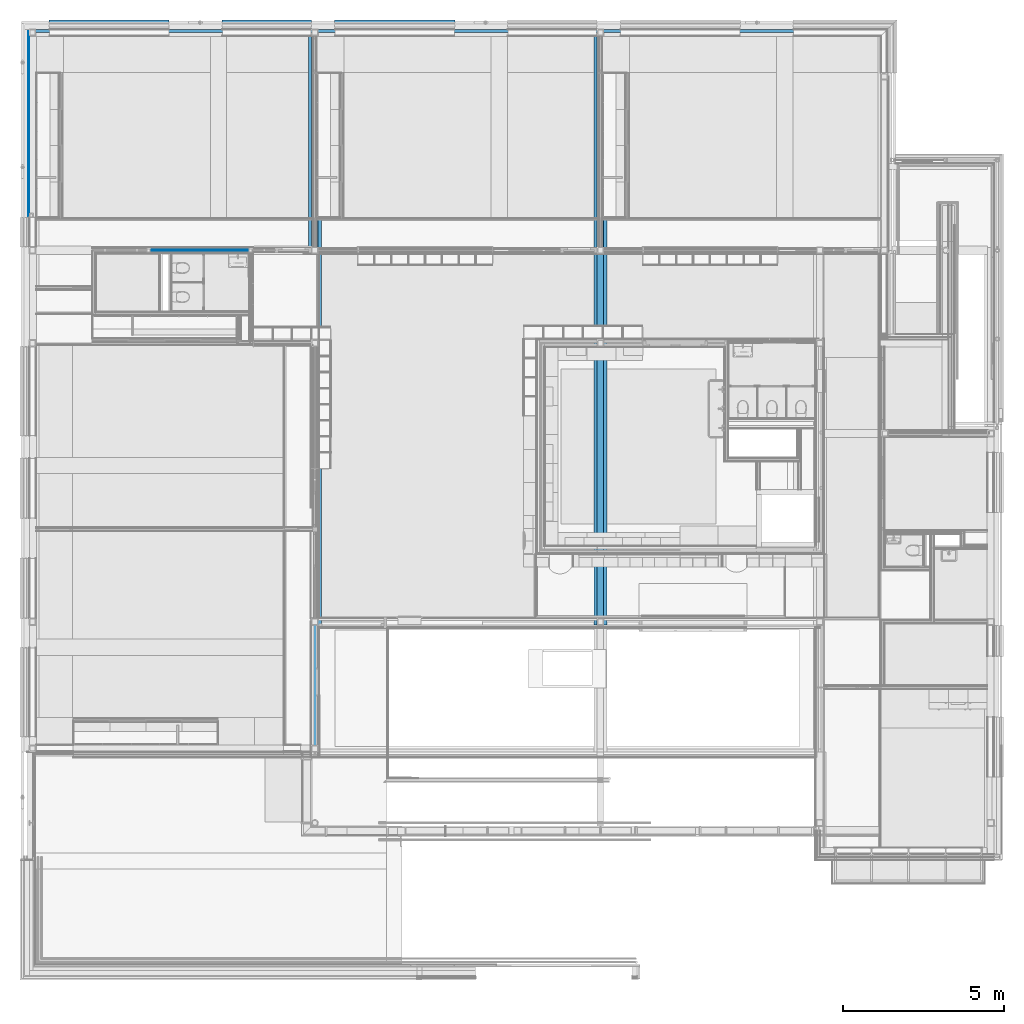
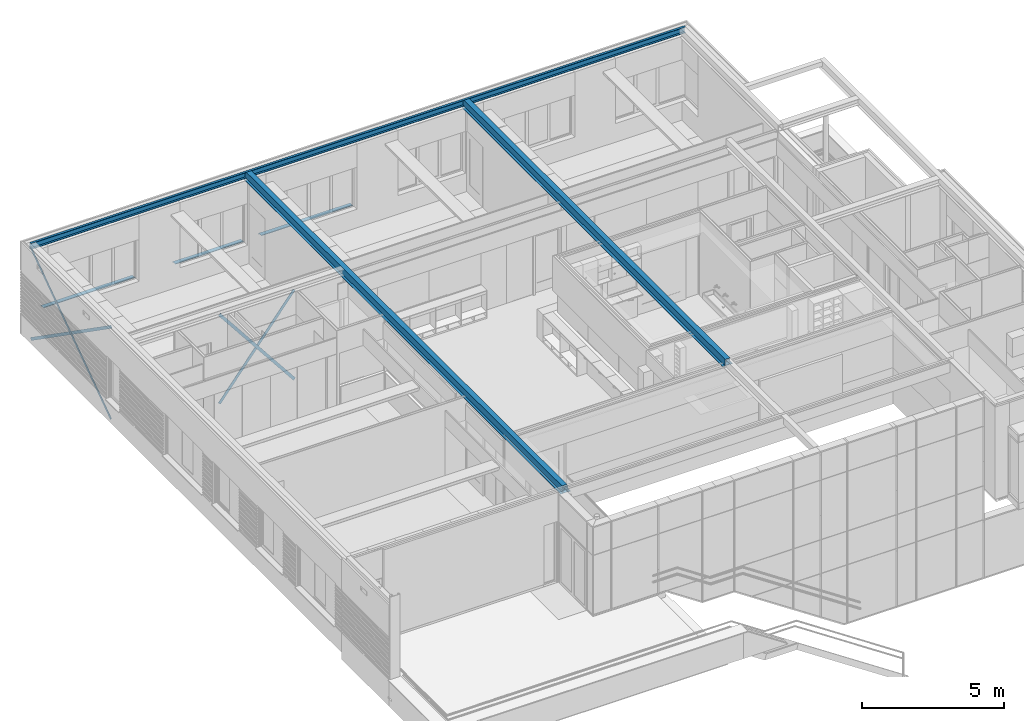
# One storey, part 22 of 137: 10 beams.
"""IFC2X3 building model written with IfcOpenShell, lengths in millimetres."""

from ifc_helpers import new_model, entity, si_unit, converted_unit, derived_unit, money_unit, direction, frame, origin_with_axes, place, context, subcontext, project, spatial, faceted_brep, material, type_object, element, save


model = new_model("IFC2X3")

# Units and contexts
model_context = context("Model", 3, precision=0.01, world=origin_with_axes(), true_north=direction((0.0, 1.0)))
body_context = subcontext(model_context, "Body", "Model", "MODEL_VIEW")
ifc_project = project(units=[si_unit("LENGTHUNIT", "METRE", prefix="MILLI"), si_unit("AREAUNIT", "SQUARE_METRE"), si_unit("VOLUMEUNIT", "CUBIC_METRE"), converted_unit("PLANEANGLEUNIT", "DEGREE", entity("IfcPlaneAngleMeasure", 0.0174532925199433), si_unit("PLANEANGLEUNIT", "RADIAN"), dimensions=[0, 0, 0, 0, 0, 0, 0]), money_unit("EUR"), converted_unit("TIMEUNIT", "Year", entity("IfcTimeMeasure", 31556926.0), si_unit("TIMEUNIT", "SECOND"), dimensions=[0, 0, 1, 0, 0, 0, 0]), si_unit("MASSUNIT", "GRAM", prefix="KILO"), si_unit("THERMODYNAMICTEMPERATUREUNIT", "DEGREE_CELSIUS"), si_unit("LUMINOUSINTENSITYUNIT", "LUMEN"), si_unit("ENERGYUNIT", "JOULE", prefix="MEGA"), derived_unit("THERMALCONDUCTANCEUNIT", [(si_unit("POWERUNIT", "WATT"), 1), (si_unit("LENGTHUNIT", "METRE"), -1), (si_unit("THERMODYNAMICTEMPERATUREUNIT", "KELVIN"), -1)]), derived_unit("SPECIFICHEATCAPACITYUNIT", [(si_unit("ENERGYUNIT", "JOULE"), 1), (si_unit("MASSUNIT", "GRAM", prefix="KILO"), -1), (si_unit("THERMODYNAMICTEMPERATUREUNIT", "KELVIN"), -1)]), derived_unit("MASSDENSITYUNIT", [(si_unit("MASSUNIT", "GRAM", prefix="KILO"), 1), (si_unit("VOLUMEUNIT", "CUBIC_METRE"), -1)])], contexts=[model_context])

# Site, building, storey
site_placement = place(None, origin_with_axes())
site = spatial("IfcSite", under=ifc_project, at=site_placement, Name="Site", CompositionType="ELEMENT")
building_placement = place(site_placement, origin_with_axes())
building = spatial("IfcBuilding", under=site, at=building_placement, Name="Naam gebouw", CompositionType="ELEMENT")
storey_placement = place(building_placement, frame((0.0, 0.0, 3960.0), z_axis=(0.0, 0.0, 1.0), x_axis=(1.0, 0.0, 0.0)))
storey = spatial("IfcBuildingStorey", under=building, at=storey_placement, Name="1e verdieping", CompositionType="ELEMENT", Elevation=3960.0)

# Beams
ifc_material_1 = material(Name="Metaal - Staal C")
beam_type_1 = type_object("IfcBeamType", Name="UNP260 90 x 260", PredefinedType="BEAM")
beam_1_placement = place(storey_placement, frame((0.0, 29175.0, 3729.999999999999), z_axis=(0.0, 0.0, 1.0), x_axis=(0.0, -1.0, 0.0)))
element("IfcBeam", 1, at=beam_1_placement, inside=storey, type_object=beam_type_1, material=ifc_material_1, Name="h METAAL_Regenwaterafvoer-x", ObjectType="BEAM", context=body_context, shape_type="Brep", body=[
    faceted_brep([(0.0, 0.0, -129.9999999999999), (0.0, 26600.0, -129.9999999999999), (89.99999999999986, 26600.0, -129.9999999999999), (89.99999999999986, 0.0, -129.9999999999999), (0.0, 0.0, 129.9999999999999), (0.0, 26600.0, 129.9999999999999), (89.99999999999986, 26600.0, 129.9999999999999), (89.99999999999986, 26600.0, 115.9999999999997), (9.99999999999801, 26600.0, 115.9999999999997), (9.99999999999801, 26600.0, -115.9999999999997), (89.99999999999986, 26600.0, -115.9999999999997), (89.99999999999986, 0.0, -115.9999999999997), (10.00000000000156, 0.0, -115.9999999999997), (10.00000000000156, 0.0, 115.9999999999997), (89.99999999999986, 0.0, 115.9999999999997), (89.99999999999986, 0.0, 129.9999999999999)], [[[0, 1, 2, 3]], [[4, 5, 1, 0]], [[2, 1, 5, 6, 7, 8, 9, 10]], [[3, 2, 10, 11]], [[4, 0, 3, 11, 12, 13, 14, 15]], [[15, 6, 5, 4]], [[14, 7, 6, 15]], [[13, 8, 7, 14]], [[12, 9, 8, 13]], [[11, 10, 9, 12]]]),
])
beam_type_2 = type_object("IfcBeamType", Name="Metaal - Staal C 15 x 120", PredefinedType="BEAM")
beam_2_placement = place(storey_placement, frame((0.0, 29075.56741081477, -230.0), z_axis=(0.0, 0.0, 1.0), x_axis=(-1.0, 0.0, 0.0)))
element("IfcBeam", 2, at=beam_2_placement, inside=storey, type_object=beam_type_2, material=ifc_material_1, Name="h METAAL_Regenwaterafvoer-x", ObjectType="BEAM", context=body_context, shape_type="Brep", body=[
    faceted_brep([(0.0, 34.37337697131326, -49.17795192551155), (0.0, 5699.940940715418, 3910.822048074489), (14.99999999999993, 5699.940940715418, 3910.822048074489), (15.00000000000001, 34.37337697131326, -49.17795192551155), (0.0, -34.37337697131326, 49.17795192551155), (0.0, 5631.194186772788, 4009.177951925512), (14.99999999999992, 5631.194186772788, 4009.177951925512), (14.99999999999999, -34.37337697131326, 49.17795192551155)], [[[0, 1, 2, 3]], [[4, 5, 1, 0]], [[2, 1, 5, 6]], [[3, 2, 6, 7]], [[4, 0, 3, 7]], [[7, 6, 5, 4]]]),
])
beam_3_placement = place(storey_placement, frame((6795.000000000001, 22309.97621406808, -230.0), z_axis=(0.0, 0.0, 1.0), x_axis=(0.0, 1.0, 0.0)))
element("IfcBeam", 3, at=beam_3_placement, inside=storey, type_object=beam_type_2, material=ifc_material_1, Name="h METAAL_Regenwaterafvoer-x", ObjectType="BEAM", context=body_context, shape_type="Brep", body=[
    faceted_brep([(0.0, 46.989462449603, -37.30938780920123), (0.0, 3087.989462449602, 3792.690612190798), (15.00000000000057, 3087.989462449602, 3792.690612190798), (15.00000000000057, 46.989462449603, -37.30938780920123), (0.0, -46.989462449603, 37.30938780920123), (0.0, 2994.010537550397, 3867.309387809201), (15.00000000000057, 2994.010537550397, 3867.309387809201), (15.00000000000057, -46.989462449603, 37.30938780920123)], [[[0, 1, 2, 3]], [[4, 5, 1, 0]], [[2, 1, 5, 6]], [[3, 2, 6, 7]], [[4, 0, 3, 7]], [[7, 6, 5, 4]]]),
])
beam_4_placement = place(storey_placement, frame((3754.000000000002, 22339.97621406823, -230.0), z_axis=(0.0, 0.0, 1.0), x_axis=(0.0, -1.0, 0.0)))
element("IfcBeam", 4, at=beam_4_placement, inside=storey, type_object=beam_type_2, material=ifc_material_1, Name="h METAAL_Regenwaterafvoer-x", ObjectType="BEAM", context=body_context, shape_type="Brep", body=[
    faceted_brep([(0.0, 46.98946244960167, -37.30938780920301), (0.0, 3087.989462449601, 3792.690612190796), (15.00000000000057, 3087.989462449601, 3792.690612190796), (15.00000000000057, 46.98946244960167, -37.30938780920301), (0.0, -46.98946244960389, 37.3093878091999), (0.0, 2994.010537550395, 3867.309387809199), (15.00000000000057, 2994.010537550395, 3867.309387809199), (15.00000000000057, -46.98946244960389, 37.3093878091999)], [[[0, 1, 2, 3]], [[4, 5, 1, 0]], [[2, 1, 5, 6]], [[3, 2, 6, 7]], [[4, 0, 3, 7]], [[7, 6, 5, 4]]]),
])
beam_5_placement = place(storey_placement, frame((-29.99999999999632, 23409.99984707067, -230.0), z_axis=(0.0, 0.0, 1.0), x_axis=(1.0, 0.0, 0.0)))
element("IfcBeam", 5, at=beam_5_placement, inside=storey, type_object=beam_type_2, material=ifc_material_1, Name="h METAAL_Regenwaterafvoer-x", ObjectType="BEAM", context=body_context, shape_type="Brep", body=[
    faceted_brep([(0.0, 34.37337697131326, -49.17795192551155), (0.0, 5699.940940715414, 3910.822048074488), (14.99999999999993, 5699.940940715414, 3910.822048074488), (15.00000000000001, 34.37337697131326, -49.17795192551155), (0.0, -34.37337697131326, 49.17795192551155), (0.0, 5631.194186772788, 4009.17795192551), (14.99999999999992, 5631.194186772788, 4009.17795192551), (14.99999999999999, -34.37337697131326, 49.17795192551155)], [[[0, 1, 2, 3]], [[4, 5, 1, 0]], [[2, 1, 5, 6]], [[3, 2, 6, 7]], [[4, 0, 3, 7]], [[7, 6, 5, 4]]]),
])
ifc_material_2 = material(Name="Metaal - Aluminium")
beam_type_3 = type_object("IfcBeamType", Name="41 Waterslag 218 x 75", PredefinedType="BEAM")
beam_6_placement = place(storey_placement, frame((5975.000000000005, 29424.99997630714, 750.0), z_axis=(0.0, 0.0, 1.0), x_axis=(8.55338134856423e-09, -1.0, 0.0)))
element("IfcBeam", 6, at=beam_6_placement, inside=storey, type_object=beam_type_3, material=ifc_material_2, Name="h4 Aluminium, aluminiumlegeringen_Regenwaterafvoer-x", ObjectType="BEAM", context=body_context, shape_type="Brep", body=[
    faceted_brep([(178.0000000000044, 0.0, 49.99999999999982), (178.0000000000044, 2770.000000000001, 49.99999999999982), (175.0000000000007, 2770.000000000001, 49.99999999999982), (175.0000000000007, 0.0, 49.99999999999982), (177.9999999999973, 0.0, 27.27462510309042), (177.9999999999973, 2770.000000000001, 27.27462510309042), (-36.99999999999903, 2770.000000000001, 12.08231741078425), (-36.99999999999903, 2770.000000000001, -21.99999999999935), (-21.99999999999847, 2770.000000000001, -21.99999999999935), (-21.99999999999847, 2770.000000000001, -24.99999999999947), (-39.99999999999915, 2770.000000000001, -24.99999999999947), (-39.99999999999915, 2770.000000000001, 15.00000000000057), (175.0000000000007, 2770.000000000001, 30.00000000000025), (175.0000000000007, 0.0, 30.00000000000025), (-39.99999999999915, 0.0, 15.00000000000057), (-39.99999999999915, 0.0, -24.99999999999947), (-21.99999999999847, 0.0, -24.99999999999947), (-21.99999999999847, 0.0, -21.99999999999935), (-36.99999999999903, 0.0, -21.99999999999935), (-36.99999999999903, 0.0, 12.08231741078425)], [[[0, 1, 2, 3]], [[4, 5, 1, 0]], [[2, 1, 5, 6, 7, 8, 9, 10, 11, 12]], [[3, 2, 12, 13]], [[4, 0, 3, 13, 14, 15, 16, 17, 18, 19]], [[19, 6, 5, 4]], [[18, 7, 6, 19]], [[17, 8, 7, 18]], [[16, 9, 8, 17]], [[15, 10, 9, 16]], [[14, 11, 10, 15]], [[13, 12, 11, 14]]]),
])
for number, where, z_axis, x_axis, name in (
    (7, (614.9999999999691, 29425.00002672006, 750.0), (0.0, 0.0, 1.0), (0.0, -1.0, 0.0), "h4 Aluminium, aluminiumlegeringen_Regenwaterafvoer-x"),
    (8, (9464.999424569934, 29425.0, 750.0), (0.0, 0.0, 1.0), (-6.369050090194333e-09, -1.0, 0.0), "h4 Aluminium, aluminiumlegeringen_Regenwaterafvoer-x"),
):
    element("IfcBeam", number, at=place(storey_placement, frame(where, z_axis=z_axis, x_axis=x_axis)), inside=storey, type_object=beam_type_3, material=ifc_material_2, Name=name, ObjectType="BEAM", context=body_context, shape_type="Brep", body=[
        faceted_brep([(178.0000000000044, 0.0, 49.99999999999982), (178.0000000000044, 3720.0, 49.99999999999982), (175.0000000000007, 3720.0, 49.99999999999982), (175.0000000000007, 0.0, 49.99999999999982), (177.9999999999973, 0.0, 27.27462510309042), (177.9999999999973, 3720.0, 27.27462510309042), (-36.99999999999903, 3720.0, 12.08231741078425), (-36.99999999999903, 3720.0, -21.99999999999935), (-21.99999999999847, 3720.0, -21.99999999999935), (-21.99999999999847, 3720.0, -24.99999999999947), (-39.99999999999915, 3720.0, -24.99999999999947), (-39.99999999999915, 3720.0, 15.00000000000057), (175.0000000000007, 3720.0, 30.00000000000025), (175.0000000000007, 0.0, 30.00000000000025), (-39.99999999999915, 0.0, 15.00000000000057), (-39.99999999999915, 0.0, -24.99999999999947), (-21.99999999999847, 0.0, -24.99999999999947), (-21.99999999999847, 0.0, -21.99999999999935), (-36.99999999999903, 0.0, -21.99999999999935), (-36.99999999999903, 0.0, 12.08231741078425)], [[[0, 1, 2, 3]], [[4, 5, 1, 0]], [[2, 1, 5, 6, 7, 8, 9, 10, 11, 12]], [[3, 2, 12, 13]], [[4, 0, 3, 13, 14, 15, 16, 17, 18, 19]], [[19, 6, 5, 4]], [[18, 7, 6, 19]], [[17, 8, 7, 18]], [[16, 9, 8, 17]], [[15, 10, 9, 16]], [[14, 11, 10, 15]], [[13, 12, 11, 14]]]),
    ])
beam_type_4 = type_object("IfcBeamType", Name="28 THQ 04 400 x 277", PredefinedType="BEAM")
beam_7_placement = place(storey_placement, frame((8849.99766361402, 6780.000058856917, 3859.999999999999), z_axis=(0.0, 0.0, 1.0), x_axis=(0.9999999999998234, -5.945002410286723e-07, 0.0)))
element("IfcBeam", 9, at=beam_7_placement, inside=storey, type_object=beam_type_4, material=ifc_material_1, Name="h METAAL_Regenwaterafvoer-x", ObjectType="BEAM", context=body_context, shape_type="Brep", body=[
    faceted_brep([(90.00233044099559, 9.99999464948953, -276.9999977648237), (-89.99766955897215, 9.999887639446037, -276.9999977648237), (-89.99777656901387, 189.9998876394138, -276.9999977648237), (90.00222343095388, 189.9999946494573, -276.9999977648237), (90.00233044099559, 9.99999464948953, -264.9999977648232), (-89.99766955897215, 9.999887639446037, -264.9999977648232), (-89.99777656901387, 189.9998876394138, -264.9999977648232), (90.00222343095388, 189.9999946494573, -264.9999977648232)], [[[0, 1, 2, 3]], [[0, 4, 5, 1]], [[1, 5, 6, 2]], [[2, 6, 7, 3]], [[3, 7, 4, 0]], [[6, 5, 4, 7]]]),
    faceted_brep([(89.98913550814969, 22204.99999464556, -276.9999977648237), (-90.01086449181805, 22204.99988763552, -276.9999977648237), (-90.01097150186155, 22384.99988763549, -276.9999977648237), (89.9890284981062, 22384.99999464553, -276.9999977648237), (89.98913550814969, 22204.99999464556, -264.9999977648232), (-90.01086449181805, 22204.99988763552, -264.9999977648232), (-90.01097150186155, 22384.99988763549, -264.9999977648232), (89.9890284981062, 22384.99999464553, -264.9999977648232)], [[[0, 1, 2, 3]], [[0, 4, 5, 1]], [[1, 5, 6, 2]], [[2, 6, 7, 3]], [[3, 7, 4, 0]], [[6, 5, 4, 7]]]),
    faceted_brep([(89.99999405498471, 3940.000105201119, -276.9999977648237), (-90.00000594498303, 3939.999998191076, -276.9999977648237), (-90.00011295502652, 4119.999998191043, -276.9999977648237), (89.99988704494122, 4120.000105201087, -276.9999977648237), (89.99999405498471, 3940.000105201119, -264.9999977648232), (-90.00000594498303, 3939.999998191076, -264.9999977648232), (-90.00011295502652, 4119.999998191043, -264.9999977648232), (89.99988704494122, 4120.000105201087, -264.9999977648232)], [[[0, 1, 2, 3]], [[0, 4, 5, 1]], [[1, 5, 6, 2]], [[2, 6, 7, 3]], [[3, 7, 4, 0]], [[6, 5, 4, 7]]]),
    faceted_brep([(89.99485757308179, 12579.99980586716, -276.9999977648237), (-90.00514242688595, 12579.99969885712, -276.9999977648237), (-90.00524943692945, 12759.99969885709, -276.9999977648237), (89.9947505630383, 12759.99980586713, -276.9999977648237), (89.99485757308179, 12579.99980586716, -264.9999977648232), (-90.00514242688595, 12579.99969885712, -264.9999977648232), (-90.00524943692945, 12759.99969885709, -264.9999977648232), (89.9947505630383, 12759.99980586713, -264.9999977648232)], [[[0, 1, 2, 3]], [[0, 4, 5, 1]], [[1, 5, 6, 2]], [[2, 6, 7, 3]], [[3, 7, 4, 0]], [[6, 5, 4, 7]]]),
    faceted_brep([(94.99999999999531, 12769.99980884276, -259.9999999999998), (94.99999999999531, 12569.99980884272, -259.9999999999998), (94.99999999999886, 12569.99980884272, -264.9999977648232), (94.99999999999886, 4130.000108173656, -264.9999977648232), (94.99999999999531, 4130.000108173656, -259.9999999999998), (94.99999999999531, 3930.000108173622, -259.9999999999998), (94.99999999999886, 3930.000108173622, -264.9999977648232), (94.99999999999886, 199.9999976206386, -264.9999977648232), (94.99999999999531, 199.9999976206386, -259.9999999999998), (94.99999999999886, 89.99999762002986, -259.9999999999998), (94.99999999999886, 89.99999762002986, -245.9999999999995), (94.99999999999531, 9.99999762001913, -245.9999999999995), (94.99999999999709, 9.999997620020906, -19.99999999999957), (94.99999999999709, 22384.99999762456, -19.99999999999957), (94.99999999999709, 22384.99999762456, -245.9999999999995), (94.99999999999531, 22304.99999762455, -245.9999999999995), (94.99999999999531, 22304.99999762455, -259.9999999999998), (94.99999999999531, 22194.99999762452, -259.9999999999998), (94.99999999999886, 22194.99999762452, -264.9999977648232), (94.99999999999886, 12769.99980884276, -264.9999977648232), (99.99486351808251, 12569.99981181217, -259.9999999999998), (99.99474461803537, 12769.99981181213, -259.9999999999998), (99.99486351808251, 12569.99981181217, -276.9999977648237), (-100.0051364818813, 12569.99969291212, -276.9999977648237), (-100.0051364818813, 12569.99969291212, -259.9999999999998), (-95.00000000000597, 12569.99969588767, -259.9999999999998), (-95.00000000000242, 12569.99969588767, -264.9999977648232), (-95.00000000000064, 4129.999995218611, -264.9999977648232), (-95.00000000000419, 4129.999995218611, -259.9999999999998), (-100.0001189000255, 4129.999992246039, -259.9999999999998), (-100.0001189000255, 4129.999992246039, -276.9999977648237), (99.99988109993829, 4130.000111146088, -276.9999977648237), (99.99988109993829, 4130.000111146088, -259.9999999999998), (99.99999999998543, 3930.000111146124, -259.9999999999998), (99.99999999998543, 3930.000111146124, -276.9999977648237), (-99.99999999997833, 3929.999992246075, -276.9999977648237), (-99.99999999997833, 3929.999992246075, -259.9999999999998), (-95.00000000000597, 3929.999995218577, -259.9999999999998), (-95.00000000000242, 3929.999995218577, -264.9999977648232), (-95.00000000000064, 199.9998846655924, -264.9999977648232), (-95.00000000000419, 199.9998846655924, -259.9999999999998), (-99.99778251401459, 199.9998816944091, -259.9999999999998), (-99.99778251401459, 199.9998816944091, -276.9999977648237), (100.0022174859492, 200.000000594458, -276.9999977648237), (100.0022174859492, 200.000000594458, -259.9999999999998), (100.0022828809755, 90.00000059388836, -259.9999999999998), (100.9999999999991, 90.00000118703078, -259.9999999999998), (100.9999999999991, 90.00000118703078, -245.9999999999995), (100.9999999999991, 10.00000118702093, -245.9999999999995), (100.9999999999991, 10.00000118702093, -14.00000000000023), (-101.0000000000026, 9.999881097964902, -14.00000000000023), (-101.0000000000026, 9.999881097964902, -245.9999999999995), (-95.00000000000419, 9.999884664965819, -245.9999999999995), (-95.00000000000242, 9.999884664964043, -20.00000000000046), (-95.00000000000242, 22384.99988466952, -20.00000000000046), (100.9999999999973, 22385.00000119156, -245.9999999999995), (-95.00000000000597, 22384.99988466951, -245.9999999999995), (-101.0000000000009, 22384.99988110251, -245.9999999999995), (-101.0000000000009, 22384.99988110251, -14.00000000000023), (100.9999999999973, 22385.00000119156, -14.00000000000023), (100.9999999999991, 22305.00000119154, -245.9999999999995), (100.9999999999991, 22305.00000119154, -259.9999999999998), (99.98907605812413, 22305.00000059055, -259.9999999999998), (99.98914145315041, 22195.00000059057, -259.9999999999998), (99.98914145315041, 22195.00000059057, -276.9999977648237), (-100.0108585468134, 22194.99988169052, -276.9999977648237), (-100.0108585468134, 22194.99988169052, -259.9999999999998), (-95.00000000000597, 22194.99988466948, -259.9999999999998), (-95.00000000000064, 22194.99988466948, -264.9999977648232), (-95.00000000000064, 12769.99969588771, -264.9999977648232), (-100.0052553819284, 12769.99969291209, -259.9999999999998), (-100.0052553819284, 12769.99969291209, -276.9999977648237), (99.99474461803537, 12769.99981181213, -276.9999977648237), (-95.00000000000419, 12769.99969588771, -259.9999999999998), (-200.0000000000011, 22395.00006004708, -276.9999977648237), (-100.0109774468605, 22394.99988169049, -276.9999977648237), (99.98902255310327, 22395.00000059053, -276.9999977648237), (199.9999999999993, 22395.00006004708, -276.9999977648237), (199.9999999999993, -0.0001777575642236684, -276.9999977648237), (100.0023363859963, 5.944942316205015e-07, -276.9999977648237), (-99.99766361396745, -0.0001183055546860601, -276.9999977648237), (-200.0000000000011, -0.0001777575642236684, -276.9999977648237), (-95.00000000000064, 22304.9998846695, -259.9999999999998), (-95.00000000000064, 22304.9998846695, -245.9999999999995), (-95.00000000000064, 89.99988466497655, -245.9999999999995), (-95.00000000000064, 89.99988466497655, -259.9999999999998), (-99.9977171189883, 89.99988169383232, -259.9999999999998), (-99.99766361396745, -0.0001183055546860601, -259.9999999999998), (100.0023363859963, 5.944942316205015e-07, -259.9999999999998), (100.9999999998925, 1.187017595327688e-06, -259.9999999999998), (100.9999999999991, -0.0001777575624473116, -264.9999977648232), (100.9999999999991, 22395.00006004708, -264.9999977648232), (101.0000000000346, 22395.00000119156, -259.9999999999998), (100.9999999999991, 22305.00000119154, -14.00000000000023), (100.9999999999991, 22305.00000119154, 0.0), (100.9999999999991, 90.00000118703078, 1.057240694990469e-05), (100.9999999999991, 90.00000118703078, -14.00000000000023), (-100.9999999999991, 89.99988109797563, -14.00000000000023), (-101.0000000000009, 89.99988109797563, 1.033381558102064e-05), (-101.0000000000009, 22304.9998811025, 0.0), (-100.9999999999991, 22304.9998811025, -14.00000000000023), (-100.9999999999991, 22304.9998811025, -245.9999999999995), (-100.9999999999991, 22304.9998811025, -259.9999999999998), (-100.9999999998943, 22394.99988110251, -259.9999999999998), (-101.0000000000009, 22395.00006004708, -264.9999977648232), (-101.0000000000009, -0.00017775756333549, -264.9999977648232), (-101.0000000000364, -0.0001189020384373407, -259.9999999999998), (-100.9999999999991, 89.99988109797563, -259.9999999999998), (-100.9999999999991, 89.99988109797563, -245.9999999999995), (99.98902255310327, 22395.00000059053, -259.9999999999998), (-100.0109239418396, 22304.9998816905, -259.9999999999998), (-100.0109774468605, 22394.99988169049, -259.9999999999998), (-200.0000000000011, 22395.00006004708, -264.9999977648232), (199.9999999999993, 22395.00006004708, -264.9999977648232), (199.9999999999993, -0.0001777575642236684, -264.9999977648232), (-200.0000000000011, -0.0001777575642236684, -264.9999977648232)], [[[0, 1, 2, 3, 4, 5, 6, 7, 8, 9, 10, 11, 12, 13, 14, 15, 16, 17, 18, 19]], [[20, 1, 0, 21]], [[20, 22, 23, 24, 25, 26, 2, 1]], [[3, 2, 26, 27]], [[28, 29, 30, 31, 32, 4, 3, 27]], [[32, 33, 5, 4]], [[5, 33, 34, 35, 36, 37, 38, 6]], [[39, 7, 6, 38]], [[7, 39, 40, 41, 42, 43, 44, 8]], [[45, 9, 8, 44]], [[45, 46, 47, 10, 9]], [[47, 48, 11, 10]], [[48, 49, 50, 51, 52, 53, 12, 11]], [[13, 12, 53, 54]], [[55, 14, 13, 54, 56, 57, 58, 59]], [[60, 15, 14, 55]], [[15, 60, 61, 62, 16]], [[62, 63, 17, 16]], [[18, 17, 63, 64, 65, 66, 67, 68]], [[68, 69, 19, 18]], [[70, 71, 72, 21, 0, 19, 69, 73]], [[21, 72, 22, 20]], [[74, 75, 65, 64, 76, 77, 78, 79, 43, 42, 80, 81], [31, 30, 35, 34], [71, 23, 22, 72]], [[24, 23, 71, 70]], [[70, 73, 25, 24]], [[25, 73, 69, 68, 67, 82, 83, 56, 54, 53, 52, 84, 85, 40, 39, 38, 37, 28, 27, 26]], [[36, 29, 28, 37]], [[29, 36, 35, 30]], [[33, 32, 31, 34]], [[40, 85, 86, 41]], [[42, 41, 86, 87, 80]], [[79, 88, 45, 44, 43]], [[45, 88, 89, 46]], [[90, 91, 92, 61, 60, 55, 59, 93, 94, 95, 96, 49, 48, 47, 46, 89]], [[49, 96, 97, 50]], [[97, 98, 99, 100, 58, 57, 101, 102, 103, 104, 105, 106, 107, 108, 51, 50]], [[84, 52, 51, 108]], [[83, 101, 57, 56]], [[59, 58, 100, 93]], [[62, 61, 92, 109]], [[76, 64, 63, 62, 109]], [[110, 66, 65, 75, 111]], [[82, 67, 66, 110]], [[112, 104, 103, 111, 75, 74]], [[91, 113, 77, 76, 109, 92]], [[113, 114, 78, 77]], [[78, 114, 90, 89, 88, 79]], [[106, 105, 115, 81, 80, 87]], [[74, 81, 115, 112]], [[102, 101, 83, 82, 110]], [[85, 84, 108, 107, 86]], [[87, 86, 107, 106]], [[91, 90, 114, 113]], [[94, 93, 100, 99]], [[99, 98, 95, 94]], [[96, 95, 98, 97]], [[111, 103, 102, 110]], [[112, 115, 105, 104]]]),
])
beam_type_5 = type_object("IfcBeamType", Name="28 THQ 05 400 x 285", PredefinedType="BEAM")
beam_8_placement = place(storey_placement, frame((17699.99942456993, 10710.00011055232, 3860.000026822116), z_axis=(0.0, 0.0, 1.0), x_axis=(1.0, 0.0, 0.0)))
element("IfcBeam", 10, at=beam_8_placement, inside=storey, type_object=beam_type_5, material=ifc_material_1, Name="h METAAL_Regenwaterafvoer-x", ObjectType="BEAM", context=body_context, shape_type="Brep", body=[
    faceted_brep([(90.00000000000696, 8649.999700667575, -284.9999977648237), (-89.99999999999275, 8649.999700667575, -284.9999977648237), (-89.99999999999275, 8829.999700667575, -284.9999977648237), (90.00000000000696, 8829.999700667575, -284.9999977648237), (90.00000000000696, 8649.999700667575, -264.9999977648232), (-89.99999999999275, 8649.999700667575, -264.9999977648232), (-89.99999999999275, 8829.999700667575, -264.9999977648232), (90.00000000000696, 8829.999700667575, -264.9999977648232)], [[[0, 1, 2, 3]], [[0, 4, 5, 1]], [[1, 5, 6, 2]], [[2, 6, 7, 3]], [[3, 7, 4, 0]], [[6, 5, 4, 7]]]),
    faceted_brep([(90.00000000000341, 9.999999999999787, -284.9999977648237), (-89.9999999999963, 9.999999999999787, -284.9999977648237), (-89.9999999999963, 189.9999999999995, -284.9999977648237), (90.00000000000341, 189.9999999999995, -284.9999977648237), (90.00000000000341, 9.999999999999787, -264.9999977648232), (-89.9999999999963, 9.999999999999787, -264.9999977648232), (-89.9999999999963, 189.9999999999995, -264.9999977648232), (90.00000000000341, 189.9999999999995, -264.9999977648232)], [[[0, 1, 2, 3]], [[0, 4, 5, 1]], [[1, 5, 6, 2]], [[2, 6, 7, 3]], [[3, 7, 4, 0]], [[6, 5, 4, 7]]]),
    faceted_brep([(90.00000000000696, 18274.99988944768, -284.9999977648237), (-89.99999999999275, 18274.99988944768, -284.9999977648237), (-89.99999999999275, 18454.99988944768, -284.9999977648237), (90.00000000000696, 18454.99988944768, -284.9999977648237), (90.00000000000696, 18274.99988944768, -264.9999977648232), (-89.99999999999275, 18274.99988944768, -264.9999977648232), (-89.99999999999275, 18454.99988944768, -264.9999977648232), (90.00000000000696, 18454.99988944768, -264.9999977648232)], [[[0, 1, 2, 3]], [[0, 4, 5, 1]], [[1, 5, 6, 2]], [[2, 6, 7, 3]], [[3, 7, 4, 0]], [[6, 5, 4, 7]]]),
    faceted_brep([(90.00000000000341, 11524.99973651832, -284.9999977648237), (-89.9999999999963, 11524.99973651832, -284.9999977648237), (-89.9999999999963, 11704.99973651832, -284.9999977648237), (90.00000000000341, 11704.99973651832, -284.9999977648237), (90.00000000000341, 11524.99973651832, -264.9999977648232), (-89.9999999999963, 11524.99973651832, -264.9999977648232), (-89.9999999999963, 11704.99973651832, -264.9999977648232), (90.00000000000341, 11704.99973651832, -264.9999977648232)], [[[0, 1, 2, 3]], [[0, 4, 5, 1]], [[1, 5, 6, 2]], [[2, 6, 7, 3]], [[3, 7, 4, 0]], [[6, 5, 4, 7]]]),
    faceted_brep([(94.99999999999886, 11714.99973651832, -260.0000268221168), (94.99999999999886, 11514.99973651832, -260.0000268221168), (94.99999999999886, 11514.99973651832, -264.9999977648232), (94.99999999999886, 8839.999700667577, -264.9999977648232), (94.99999999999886, 8839.999700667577, -260.0000268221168), (94.99999999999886, 8639.999700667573, -260.0000268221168), (94.99999999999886, 8639.999700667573, -264.9999977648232), (94.99999999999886, 199.9999999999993, -264.9999977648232), (94.99999999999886, 199.9999999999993, -260.0000268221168), (94.99999999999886, 0.0, -260.0000268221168), (94.99999999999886, 0.0, -35.00000000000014), (94.99999999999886, 18454.99988944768, -35.00000000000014), (94.99999999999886, 18454.99988944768, -246.0000268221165), (94.99999999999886, 18374.99988944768, -246.0000268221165), (94.99999999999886, 18374.99988944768, -260.0000268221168), (94.99999999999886, 18264.99988944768, -260.0000268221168), (94.99999999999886, 18264.99988944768, -264.9999977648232), (94.99999999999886, 11714.99973651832, -264.9999977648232), (100.000000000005, 11514.99973651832, -260.0000268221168), (100.000000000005, 11714.99973651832, -260.0000268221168), (100.000000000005, 11514.99973651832, -284.9999977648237), (-99.99999999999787, 11514.99973651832, -284.9999977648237), (-99.99999999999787, 11514.99973651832, -260.0000268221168), (-94.99999999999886, 11514.99973651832, -260.0000268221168), (-94.99999999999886, 11514.99973651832, -264.9999977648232), (-94.99999999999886, 8839.999700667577, -264.9999977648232), (-99.99999999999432, 8839.999700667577, -260.0000268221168), (-99.99999999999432, 8839.999700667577, -284.9999977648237), (100.0000000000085, 8839.999700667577, -284.9999977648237), (100.0000000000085, 8839.999700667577, -260.0000268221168), (-94.99999999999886, 8839.999700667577, -260.0000268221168), (100.0000000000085, 8639.999700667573, -260.0000268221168), (100.0000000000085, 8639.999700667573, -284.9999977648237), (-99.99999999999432, 8639.999700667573, -284.9999977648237), (-99.99999999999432, 8639.999700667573, -260.0000268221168), (-94.99999999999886, 8639.999700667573, -260.0000268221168), (-94.99999999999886, 8639.999700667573, -264.9999977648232), (-94.99999999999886, 199.9999999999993, -264.9999977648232), (-99.99999999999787, 199.9999999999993, -260.0000268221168), (-99.99999999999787, 199.9999999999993, -284.9999977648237), (100.000000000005, 199.9999999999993, -284.9999977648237), (100.000000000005, 199.9999999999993, -260.0000268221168), (-94.99999999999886, 199.9999999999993, -260.0000268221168), (100.000000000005, 0.0, -260.0000268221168), (100.000000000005, 0.0, -284.9999977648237), (199.9999999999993, 0.0, -284.9999977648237), (199.9999999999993, 0.0, -264.9999977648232), (100.9999999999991, 0.0, -264.9999977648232), (100.9999999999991, 0.0, 0.0), (-100.9999999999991, 0.0, 0.0), (-100.9999999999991, 0.0, -264.9999977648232), (-199.9999999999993, 0.0, -264.9999977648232), (-199.9999999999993, 0.0, -284.9999977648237), (-99.99999999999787, 0.0, -284.9999977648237), (-99.99999999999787, 0.0, -260.0000268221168), (-94.99999999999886, 0.0, -260.0000268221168), (-94.99999999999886, 0.0, -35.00000000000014), (-94.99999999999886, 18454.99988944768, -35.00000000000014), (-100.9999999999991, 18454.99988944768, -246.0000268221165), (-100.9999999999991, 18454.99988944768, -14.00002682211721), (100.9999999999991, 18454.99988944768, -14.00002682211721), (100.9999999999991, 18454.99988944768, -246.0000268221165), (-94.99999999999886, 18454.99988944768, -246.0000268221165), (100.9999999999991, 18374.99988944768, -246.0000268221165), (100.9999999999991, 18374.99988944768, -260.0000268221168), (100.0000000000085, 18374.99988944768, -260.0000268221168), (100.0000000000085, 18264.99988944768, -260.0000268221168), (100.0000000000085, 18264.99988944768, -284.9999977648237), (-99.99999999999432, 18264.99988944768, -284.9999977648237), (-99.99999999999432, 18264.99988944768, -260.0000268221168), (-94.99999999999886, 18264.99988944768, -260.0000268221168), (-94.99999999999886, 18264.99988944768, -264.9999977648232), (-94.99999999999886, 11714.99973651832, -264.9999977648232), (-99.99999999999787, 11714.99973651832, -260.0000268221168), (-99.99999999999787, 11714.99973651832, -284.9999977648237), (100.000000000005, 11714.99973651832, -284.9999977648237), (-94.99999999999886, 11714.99973651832, -260.0000268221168), (100.0000000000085, 18464.99988944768, -284.9999977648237), (199.9999999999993, 18464.99988944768, -284.9999977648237), (-199.9999999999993, 18464.99988944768, -284.9999977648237), (-99.99999999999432, 18464.99988944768, -284.9999977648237), (-94.99999999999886, 18374.99988944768, -260.0000268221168), (-94.99999999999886, 18374.99988944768, -246.0000268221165), (199.9999999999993, 18464.99988944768, -264.9999977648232), (100.9999999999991, 18464.99988944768, -264.9999977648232), (100.9999999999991, 18374.99988944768, -14.00002682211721), (100.9999999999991, 18374.99988944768, -2.682211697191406e-05), (100.9999999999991, 18464.99988944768, -260.0000268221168), (-100.9999999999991, 18374.99988944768, -2.682211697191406e-05), (-100.9999999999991, 18374.99988944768, -246.0000268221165), (-100.9999999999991, 18374.99988944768, -260.0000268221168), (-100.9999999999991, 18464.99988944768, -260.0000268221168), (-100.9999999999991, 18464.99988944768, -264.9999977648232), (-100.9999999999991, 18374.99988944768, -14.00002682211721), (-199.9999999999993, 18464.99988944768, -264.9999977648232), (100.0000000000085, 18464.99988944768, -260.0000268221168), (-99.99999999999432, 18464.99988944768, -260.0000268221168), (-99.99999999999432, 18374.99988944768, -260.0000268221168)], [[[0, 1, 2, 3, 4, 5, 6, 7, 8, 9, 10, 11, 12, 13, 14, 15, 16, 17]], [[18, 1, 0, 19]], [[18, 20, 21, 22, 23, 24, 2, 1]], [[3, 2, 24, 25]], [[26, 27, 28, 29, 4, 3, 25, 30]], [[31, 5, 4, 29]], [[31, 32, 33, 34, 35, 36, 6, 5]], [[36, 37, 7, 6]], [[38, 39, 40, 41, 8, 7, 37, 42]], [[41, 43, 9, 8]], [[9, 43, 44, 45, 46, 47, 48, 49, 50, 51, 52, 53, 54, 55, 56, 10]], [[10, 56, 57, 11]], [[58, 59, 60, 61, 12, 11, 57, 62]], [[13, 12, 61, 63]], [[64, 65, 14, 13, 63]], [[15, 14, 65, 66]], [[66, 67, 68, 69, 70, 71, 16, 15]], [[71, 72, 17, 16]], [[73, 74, 75, 19, 0, 17, 72, 76]], [[19, 75, 20, 18]], [[68, 67, 77, 78, 45, 44, 40, 39, 53, 52, 79, 80], [27, 33, 32, 28], [74, 21, 20, 75]], [[22, 21, 74, 73]], [[73, 76, 23, 22]], [[23, 76, 72, 71, 70, 81, 82, 62, 57, 56, 55, 42, 37, 36, 35, 30, 25, 24]], [[34, 33, 27, 26]], [[29, 28, 32, 31]], [[26, 30, 35, 34]], [[54, 53, 39, 38]], [[41, 40, 44, 43]], [[38, 42, 55, 54]], [[78, 83, 46, 45]], [[83, 84, 47, 46]], [[61, 60, 85, 86, 48, 47, 84, 87, 64, 63]], [[49, 48, 86, 88]], [[58, 89, 90, 91, 92, 50, 49, 88, 93, 59]], [[92, 94, 51, 50]], [[94, 79, 52, 51]], [[59, 93, 85, 60]], [[89, 58, 62, 82]], [[87, 95, 65, 64]], [[66, 65, 95, 77, 67]], [[68, 80, 96, 97, 69]], [[69, 97, 81, 70]], [[78, 77, 95, 87, 84, 83]], [[91, 96, 80, 79, 94, 92]], [[82, 81, 97, 90, 89]], [[85, 93, 88, 86]], [[90, 97, 96, 91]]]),
])

save(model, "model.ifc")
